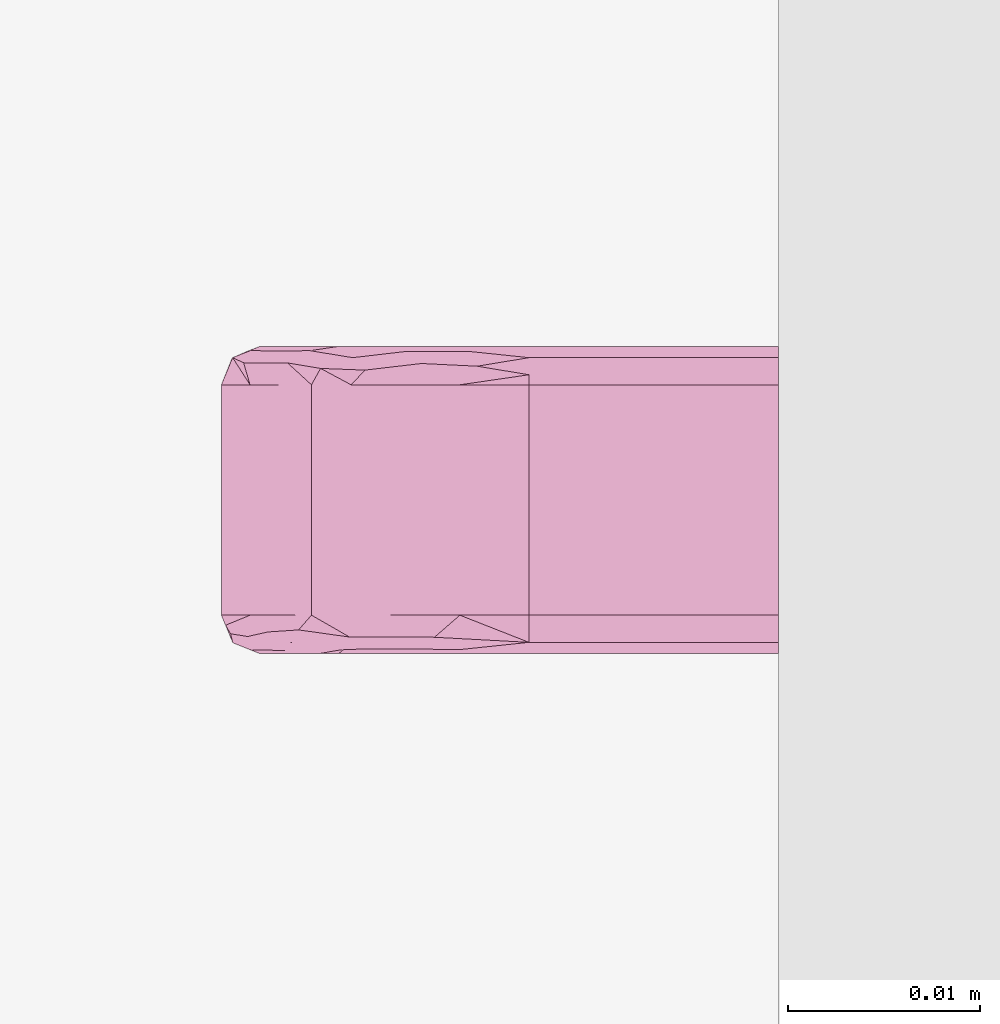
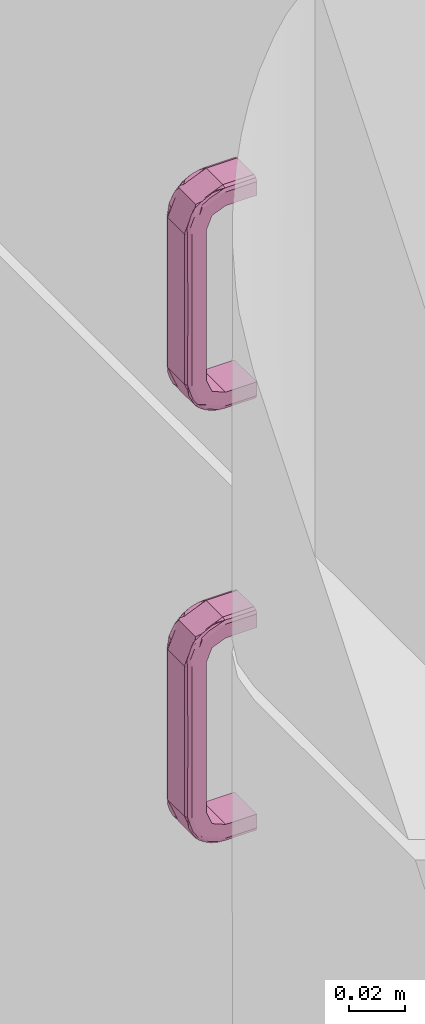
# One storey, part 62 of 65: 2 furnishings.
"""IFC2X3 building model written with IfcOpenShell, lengths in millimetres."""

from ifc_helpers import new_model, entity, si_unit, converted_unit, direction, frame, origin, place, context, subcontext, project, spatial, faceted_brep, source, transform, mapped, material, type_object, type_shapes, element, save


model = new_model("IFC2X3")

# Units and contexts
model_context = context("Model", 3, precision=0.01, world=origin(), true_north=direction((0.0, 1.0)))
body_context = subcontext(model_context, "Body", "Model", "MODEL_VIEW")
ifc_project = project(units=[si_unit("LENGTHUNIT", "METRE", prefix="MILLI"), si_unit("AREAUNIT", "SQUARE_METRE"), si_unit("VOLUMEUNIT", "CUBIC_METRE"), converted_unit("PLANEANGLEUNIT", "DEGREE", entity("IfcPlaneAngleMeasure", 0.017453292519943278), si_unit("PLANEANGLEUNIT", "RADIAN"), dimensions=[0, 0, 0, 0, 0, 0, 0])], contexts=[model_context])

# Site, building, storey, space
site_placement = place(None, origin())
site = spatial("IfcSite", under=ifc_project, at=site_placement, Name="Default", CompositionType="ELEMENT")
building_placement = place(site_placement, origin())
building = spatial("IfcBuilding", under=site, at=building_placement, CompositionType="ELEMENT")
storey_placement = place(building_placement, origin())
storey = spatial("IfcBuildingStorey", under=building, at=storey_placement, Name="Et. 1", CompositionType="ELEMENT", Elevation=0.0)
space_placement = place(storey_placement, origin())
space = spatial("IfcSpace", under=storey, at=space_placement, Name="113", CompositionType="ELEMENT", InteriorOrExteriorSpace="INTERNAL")

# Furnishings
ifc_material = material(Name="Focus - Kjøkken - Håndtak")
furniture_type = type_object("IfcFurnitureType", Name="Focus - Håndtak Skap:Håndtak skap", AssemblyPlace="NOTDEFINED", material=ifc_material)
shared_shape = source(origin(), body_context, "Body", "Brep", [
    faceted_brep([(-6.0, 0.0, 4.021099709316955), (6.0, 0.0, 4.021099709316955), (7.414213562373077, 0.0, 3.435313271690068), (8.0, 0.0, 2.021099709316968), (8.0, 0.0, -4.0210997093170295), (-8.0, 0.0, -4.0210997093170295), (-8.0, 0.0, 2.021099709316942), (-7.414213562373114, 0.0, 3.435313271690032), (-8.0, 0.0, -92.021099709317), (-8.0, 0.0, -85.97890029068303), (8.0, 0.0, -85.97890029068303), (8.0, 0.0, -92.02109970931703), (7.414213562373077, 0.0, -93.43531327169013), (6.0, 0.0, -94.02109970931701), (-6.0, 0.0, -94.02109970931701), (-7.414213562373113, 0.0, -93.43531327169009), (6.0, -13.0, 4.021099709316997), (7.414213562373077, -13.0, 3.4353132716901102), (7.707106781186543, -13.0, 2.728206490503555), (8.0, -13.0, 2.0210997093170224), (8.0, -16.60126528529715, 0.5294067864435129), (8.0, -19.75783998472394, -0.7780892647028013), (8.0, -22.914414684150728, -2.0855853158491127), (8.0, -23.941085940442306, -4.564188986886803), (8.0, -24.967757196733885, -7.042792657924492), (8.0, -25.994428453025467, -9.52139632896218), (8.0, -27.021099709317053, -12.0), (8.0, -27.021099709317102, -24.345039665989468), (8.0, -27.02109970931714, -36.69008005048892), (8.0, -27.021099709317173, -47.017560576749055), (8.0, -27.02109970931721, -57.34504038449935), (8.0, -27.021099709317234, -65.65496033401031), (8.0, -27.021099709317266, -78.0), (8.0, -25.52940678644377, -81.60126528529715), (8.0, -24.221910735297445, -84.75783998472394), (8.0, -22.914414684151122, -87.91441468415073), (8.0, -20.435811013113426, -88.9410859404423), (8.0, -17.95720734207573, -89.96775719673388), (8.0, -15.478603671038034, -90.99442845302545), (8.0, -13.0, -92.02109970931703), (8.0, -13.0, -85.97890029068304), (8.0, -18.64193450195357, -83.64193450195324), (8.0, -20.978900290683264, -78.0), (8.0, -20.978900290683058, -12.0), (8.0, -18.641934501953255, -6.358065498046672), (8.0, -13.0, -4.021099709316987), (-8.0, -13.0, -4.021099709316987), (-8.0, -13.0, -92.02109970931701), (-8.0, -16.6012653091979, -90.52940677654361), (-8.0, -19.7578399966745, -89.22191073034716), (-8.0, -22.914414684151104, -87.91441468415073), (-8.0, -23.941085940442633, -85.435811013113), (-8.0, -24.967757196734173, -82.9572073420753), (-8.0, -25.99442845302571, -80.47860367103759), (-8.0, -27.021099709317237, -78.0), (-8.0, -27.0210997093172, -65.65496055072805), (-8.0, -27.021099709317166, -55.327480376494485), (-8.0, -27.02109970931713, -45.00000020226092), (-8.0, -27.021099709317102, -34.67252002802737), (-8.0, -27.021099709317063, -24.34503985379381), (-8.0, -27.02109970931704, -12.0), (-8.0, -25.52940677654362, -8.398734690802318), (-8.0, -24.221910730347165, -5.242160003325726), (-8.0, -22.914414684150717, -2.0855853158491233), (-8.0, -20.435811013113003, -1.0589140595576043), (-8.0, -17.9572073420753, -0.032242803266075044), (-8.0, -15.478603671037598, 0.9944284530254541), (-8.0, -13.0, 2.0210997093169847), (-8.0, -18.641934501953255, -6.358065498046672), (-8.0, -20.97890029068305, -12.0), (-8.0, -20.978900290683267, -78.0), (-8.0, -18.64193450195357, -83.64193450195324), (-8.0, -13.0, -85.97890029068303), (-7.414213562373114, -13.0, 3.4353132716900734), (-6.523051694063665, -13.0, 3.8044446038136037), (-6.0, -13.0, 4.021099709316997), (7.77682804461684, -22.641402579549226, -0.588486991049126), (7.761199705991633, -19.755916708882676, 1.3575143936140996), (7.832026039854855, -25.954055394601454, -4.794062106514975), (6.0, -24.3286282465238, -0.6713717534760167), (6.7653668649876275, -25.002953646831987, -1.6197407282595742), (7.138822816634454, -22.341444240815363, 0.5752165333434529), (6.0, -20.2025305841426, 1.0377138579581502), (7.148530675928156, -17.923500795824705, 2.864246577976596), (7.108929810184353, -27.65191997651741, -6.400304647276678), (6.0, -26.037713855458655, -4.797469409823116), (6.0, -26.674863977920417, -6.335685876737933), (6.0, -27.52940678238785, -8.398734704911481), (6.0, -25.18317105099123, -2.734420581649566), (7.807346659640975, -27.454202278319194, -8.476170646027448), (7.7836039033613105, -16.529274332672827, 2.502698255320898), (6.0, -16.60126529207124, 2.529406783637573), (7.414213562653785, -25.40873190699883, -2.82000717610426), (6.873580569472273, -26.597477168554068, -3.91370423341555), (6.0, -21.496471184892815, 0.5017461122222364), (6.523051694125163, -28.804444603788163, -12.0), (6.968390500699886, -28.53877057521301, -9.3033965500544), (6.0, -27.847981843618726, -9.167842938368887), (6.0, -29.021099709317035, -12.0), (7.414213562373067, -28.43531327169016, -12.0), (6.0, -18.664314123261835, 1.67486397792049), (6.0, -25.501746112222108, -3.5035288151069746), (-6.0, -16.601265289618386, 2.529406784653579), (-6.0, -15.832157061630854, 2.847981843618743), (-7.78360391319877, -27.50269824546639, -8.470725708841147), (-7.761199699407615, -26.357514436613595, -5.244083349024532), (-7.10892981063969, -18.599695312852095, 2.651919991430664), (-6.0, -20.2025305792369, 1.0377138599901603), (-6.0, -18.664314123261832, 1.67486397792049), (-7.730939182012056, -16.04875454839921, 2.7104148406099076), (-7.744591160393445, -19.340507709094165, 1.5930015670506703), (-6.76536686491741, -21.540484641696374, 1.3746327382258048), (-6.0, -22.265579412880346, 0.183171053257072), (-6.0, -21.496471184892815, 0.5017461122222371), (-7.148530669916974, -27.864246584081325, -7.076499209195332), (-7.138822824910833, -25.57521654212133, -2.6585557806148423), (-6.0, -26.037713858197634, -4.7974694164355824), (-7.414213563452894, -22.17999279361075, 0.4087319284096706), (-7.776828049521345, -24.411513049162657, -2.3585974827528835), (-6.853012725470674, -23.855367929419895, -0.47819170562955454), (-7.414213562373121, -28.43531327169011, -12.0), (-6.0, -27.529406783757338, -8.398734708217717), (-6.0, -25.501746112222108, -3.5035288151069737), (-6.0, -24.3286282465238, -0.6713717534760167), (-7.7071067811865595, -27.728206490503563, -12.0), (-6.96839049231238, -15.696603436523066, 3.5387705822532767), (-6.0, -29.021099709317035, -12.0), (-6.0, -26.67486397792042, -6.33568587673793), (7.414213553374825, -28.435313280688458, -29.508780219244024), (6.0, -29.021099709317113, -34.67252039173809), (7.450985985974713, -28.39755881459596, -41.853819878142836), (7.41421354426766, -28.435313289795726, -61.49999992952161), (6.0, -29.02109970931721, -65.65496032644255), (7.4142135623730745, -28.435313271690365, -78.0), (6.0, -29.02109970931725, -78.0), (6.0, -29.02109970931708, -24.345039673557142), (7.707106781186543, -27.728206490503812, -78.0), (6.0, -29.02109970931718, -55.3274796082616), (6.0, -29.021099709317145, -45.0), (-7.414213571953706, -28.435313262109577, -29.50878047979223), (-6.0, -29.02109970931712, -36.69007988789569), (-6.0, -29.021099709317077, -24.345040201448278), (-7.414213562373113, -28.43531327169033, -78.0), (-7.414213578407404, -28.435313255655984, -61.499999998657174), (-6.0, -29.021099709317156, -47.017559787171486), (-7.376459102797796, -28.472085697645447, -41.85382016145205), (-6.0, -29.021099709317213, -65.6549603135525), (-6.523051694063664, -28.80444460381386, -78.0), (-6.0, -29.02109970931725, -78.0), (-6.0, -29.021099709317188, -57.34504020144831), (7.776828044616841, -24.411513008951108, -87.64140257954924), (7.7611997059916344, -26.357514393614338, -84.7559167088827), (7.8320260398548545, -20.20593789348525, -90.95405539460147), (6.0, -24.328628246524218, -89.32862824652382), (6.0, -22.265579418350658, -90.18317105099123), (6.7653668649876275, -23.38025927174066, -90.002953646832), (6.0, -26.037713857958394, -85.2025305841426), (7.138822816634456, -25.575216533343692, -87.34144424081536), (7.148530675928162, -27.864246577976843, -82.92350079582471), (7.108929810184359, -18.599695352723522, -92.65191997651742), (6.0, -20.202530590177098, -91.03771385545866), (6.0, -18.66431412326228, -91.67486397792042), (6.0, -16.601265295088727, -92.52940678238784), (6.873580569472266, -21.086295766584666, -91.5974771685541), (6.0, -21.49647118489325, -90.50174611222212), (7.8073466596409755, -16.5238293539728, -92.45420227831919), (7.78360390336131, -27.50269825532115, -81.52927433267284), (6.0, -27.529406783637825, -81.60126529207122), (7.414213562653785, -22.179992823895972, -90.40873190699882), (6.0, -25.50174611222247, -86.49647118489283), (6.523051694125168, -13.0, -93.80444460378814), (6.968390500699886, -15.696603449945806, -93.53877057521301), (6.0, -15.832157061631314, -92.84798184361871), (6.0, -13.0, -94.02109970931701), (7.414213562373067, -13.0, -93.43531327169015), (6.0, -26.674863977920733, -83.66431412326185), (-6.0, -27.529406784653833, -81.60126528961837), (-6.0, -27.84798184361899, -80.83215706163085), (-7.7836039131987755, -16.529274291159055, -92.50269824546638), (-7.7611996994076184, -19.755916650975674, -91.3575144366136), (-7.108929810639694, -27.651919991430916, -83.59969531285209), (-6.0, -26.03771385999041, -85.20253057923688), (-6.0, -26.67486397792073, -83.66431412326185), (-7.730939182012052, -27.71041484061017, -81.04875454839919), (-7.74459116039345, -26.593001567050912, -84.34050770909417), (-6.76536686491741, -26.374632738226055, -86.54048464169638), (-6.0, -25.18317105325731, -87.26557941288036), (-6.0, -25.50174611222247, -86.49647118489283), (-7.148530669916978, -17.923500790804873, -92.86424658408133), (-7.138822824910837, -22.341444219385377, -90.57521654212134), (-6.0, -20.20253058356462, -91.03771385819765), (-7.414213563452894, -25.40873192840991, -87.17999279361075), (-7.776828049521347, -22.64140251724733, -89.41151304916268), (-6.853012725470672, -24.52180829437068, -88.85536792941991), (-7.41421356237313, -13.0, -93.43531327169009), (-6.0, -16.601265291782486, -92.52940678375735), (-6.0, -21.49647118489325, -90.50174611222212), (-6.0, -24.328628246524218, -89.32862824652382), (-7.707106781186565, -13.0, -92.72820649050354), (-6.96839049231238, -28.538770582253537, -80.69660343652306), (-6.0, -13.0, -94.02109970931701), (-6.0, -18.66431412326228, -91.67486397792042)], [[[0, 1, 2, 3, 4, 5, 6, 7]], [[8, 9, 10, 11, 12, 13, 14, 15]], [[16, 17, 2, 1]], [[2, 17, 18, 19, 3]], [[4, 3, 19, 20, 21, 22, 23, 24, 25, 26, 27, 28, 29, 30, 31, 32, 33, 34, 35, 36, 37, 38, 39, 11, 10, 40, 41, 42, 43, 44, 45]], [[5, 4, 45, 46]], [[9, 8, 47, 48, 49, 50, 51, 52, 53, 54, 55, 56, 57, 58, 59, 60, 61, 62, 63, 64, 65, 66, 67, 6, 5, 46, 68, 69, 70, 71, 72]], [[67, 73, 7, 6]], [[7, 73, 74, 75, 0]], [[1, 0, 75, 16]], [[76, 21, 77]], [[78, 24, 23]], [[79, 80, 81]], [[82, 81, 83]], [[84, 85, 86, 87]], [[80, 79, 88]], [[89, 24, 78]], [[90, 77, 20]], [[17, 91, 83]], [[92, 93, 84]], [[81, 82, 94, 79]], [[87, 95, 96]], [[77, 83, 81]], [[23, 76, 78]], [[93, 92, 80]], [[22, 76, 23]], [[90, 17, 83]], [[19, 18, 17, 90]], [[95, 87, 97, 98]], [[99, 26, 89]], [[76, 77, 81]], [[20, 19, 90]], [[92, 76, 81]], [[21, 76, 22]], [[21, 20, 77]], [[83, 77, 90]], [[91, 17, 16]], [[83, 91, 100, 82]], [[93, 88, 101, 85]], [[81, 80, 92]], [[88, 93, 80]], [[85, 84, 93]], [[76, 92, 78]], [[92, 84, 78]], [[89, 78, 84]], [[84, 96, 89]], [[89, 26, 25, 24]], [[96, 95, 99]], [[89, 96, 99]], [[87, 96, 84]], [[44, 68, 46, 45]], [[43, 69, 68, 44]], [[74, 102, 103, 75]], [[104, 105, 61]], [[106, 107, 108, 102]], [[109, 110, 106]], [[111, 112, 113, 107]], [[105, 114, 115]], [[115, 114, 116]], [[110, 64, 117]], [[118, 62, 105]], [[106, 110, 117]], [[117, 119, 111]], [[120, 121, 114]], [[115, 116, 122, 123]], [[112, 111, 119]], [[119, 117, 118]], [[63, 118, 64]], [[104, 120, 114]], [[60, 124, 120, 104]], [[109, 125, 73]], [[125, 109, 106]], [[118, 105, 115]], [[61, 60, 104]], [[118, 115, 119]], [[62, 118, 63]], [[62, 61, 105]], [[114, 105, 104]], [[121, 120, 126]], [[114, 121, 127, 116]], [[107, 106, 111]], [[106, 117, 111]], [[115, 123, 119]], [[112, 119, 123]], [[64, 118, 117]], [[125, 74, 73]], [[102, 74, 125]], [[102, 125, 106]], [[73, 67, 109]], [[66, 65, 64, 110]], [[110, 109, 66]], [[109, 67, 66]], [[122, 116, 127, 121, 126, 98, 97, 87, 86, 85, 101, 88, 79, 123]], [[79, 94, 82, 100, 91, 16, 75, 103, 102, 108, 107, 113, 112, 123]], [[128, 28, 27, 99]], [[129, 130, 128]], [[29, 130, 131]], [[132, 133, 131]], [[132, 134, 133]], [[135, 99, 95, 98]], [[128, 99, 135, 129]], [[30, 29, 131, 31]], [[31, 133, 136, 32]], [[27, 26, 99]], [[31, 131, 133]], [[130, 137, 131]], [[28, 130, 29]], [[129, 138, 137, 130]], [[28, 128, 130]], [[137, 132, 131]], [[69, 43, 42, 70]], [[139, 140, 141, 120]], [[55, 142, 143]], [[144, 145, 143]], [[146, 142, 147, 148]], [[141, 126, 120]], [[55, 54, 142]], [[59, 120, 124, 60]], [[139, 120, 59, 58]], [[146, 149, 144, 143]], [[58, 145, 139]], [[146, 143, 142]], [[145, 56, 143]], [[140, 145, 144]], [[58, 57, 56, 145]], [[140, 139, 145]], [[56, 55, 143]], [[98, 126, 141, 140, 144, 149, 146, 148, 134, 132, 137, 138, 129, 135]], [[150, 34, 151]], [[152, 37, 36]], [[153, 154, 155]], [[156, 157, 158]], [[159, 160, 161, 162]], [[163, 154, 164, 160]], [[165, 37, 152]], [[166, 151, 33]], [[133, 167, 158]], [[168, 163, 159]], [[157, 156, 169, 153]], [[162, 170, 171]], [[151, 158, 157]], [[36, 150, 152]], [[163, 168, 155]], [[35, 150, 36]], [[166, 133, 158]], [[32, 136, 133, 166]], [[170, 162, 172, 173]], [[174, 39, 165]], [[150, 151, 157]], [[33, 32, 166]], [[168, 150, 157]], [[34, 150, 35]], [[34, 33, 151]], [[158, 151, 166]], [[167, 133, 134]], [[158, 167, 175, 156]], [[168, 157, 155]], [[157, 153, 155]], [[154, 163, 155]], [[160, 159, 163]], [[150, 168, 152]], [[168, 159, 152]], [[165, 152, 159]], [[159, 171, 165]], [[165, 39, 38, 37]], [[171, 170, 174]], [[165, 171, 174]], [[162, 171, 159]], [[41, 71, 70, 42]], [[40, 72, 71, 41]], [[147, 176, 177, 148]], [[178, 179, 48]], [[180, 181, 182, 176]], [[183, 184, 180]], [[185, 186, 187, 181]], [[179, 188, 189]], [[189, 188, 190]], [[184, 51, 191]], [[192, 49, 179]], [[180, 184, 191]], [[191, 193, 185]], [[194, 195, 188]], [[189, 190, 196, 197]], [[186, 185, 193]], [[193, 191, 192]], [[50, 192, 51]], [[178, 194, 188]], [[47, 198, 194, 178]], [[183, 199, 142]], [[199, 183, 180]], [[192, 179, 189]], [[48, 47, 178]], [[192, 189, 193]], [[49, 192, 50]], [[49, 48, 179]], [[188, 179, 178]], [[195, 194, 200]], [[188, 195, 201, 190]], [[181, 180, 185]], [[180, 191, 185]], [[189, 197, 193]], [[186, 193, 197]], [[51, 192, 191]], [[199, 147, 142]], [[176, 147, 199]], [[176, 199, 180]], [[142, 54, 183]], [[53, 52, 51, 184]], [[184, 183, 53]], [[183, 54, 53]], [[196, 190, 201, 195, 200, 173, 172, 162, 161, 160, 164, 154, 153, 197]], [[153, 169, 156, 175, 167, 134, 148, 177, 176, 182, 181, 187, 186, 197]], [[13, 12, 174, 170, 173]], [[174, 12, 11, 39]], [[72, 40, 10, 9]], [[8, 15, 194, 198, 47]], [[194, 15, 14, 200]], [[173, 200, 14, 13]]]),
])
type_shapes(furniture_type, [shared_shape])
for number, where, z_axis, x_axis, name in (
    (1, (33329.0095867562, 11806.058719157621, 820.0), (0.0, 0.0, 1.0), (0.0, -1.0, 0.0), "Focus - Håndtak Skap:Håndtak skap"),
    (2, (33329.0095867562, 11806.058719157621, 1010.0), (0.0, 0.0, 1.0), (0.0, -1.0, 0.0), "Focus - Håndtak Skap:Håndtak skap"),
):
    element("IfcFurnishingElement", number, at=place(space_placement, frame(where, z_axis=z_axis, x_axis=x_axis)), inside=space, type_object=furniture_type, material=ifc_material, Name=name, context=body_context, shape_type="MappedRepresentation", body=[
        mapped(shared_shape, transform((0.0, 0.0, 0.0), scale=1.0)),
    ])

save(model, "model.ifc")
